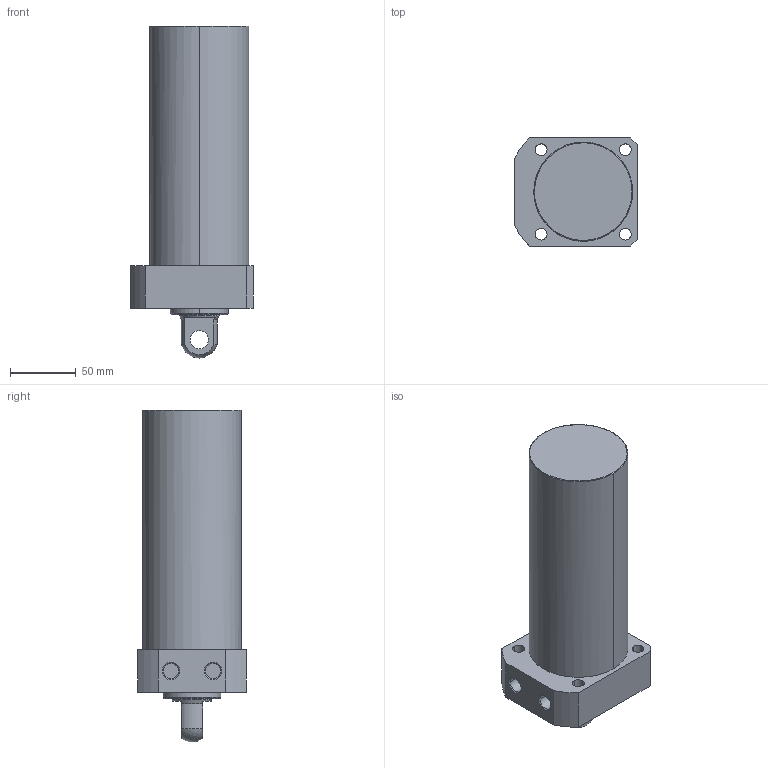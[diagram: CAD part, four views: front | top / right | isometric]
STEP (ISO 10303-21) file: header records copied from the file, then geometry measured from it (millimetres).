
FILE_DESCRIPTION((' '),'2;1');
FILE_NAME( 'TLLR-075CP-150.STEP.stp', '2025-10-24T16:35:17', (' '), ('--- Datakit www.datakit.com---'), ' Datakit CrossCadWare V2024.1 Dec 21 2023', 'Mastercam 2025', ' ');
FILE_SCHEMA(('AUTOMOTIVE_DESIGN { 1 0 10303 214 1 1 1 1 }'));
Length unit declared in the file: millimetre
Products named in the file (1): TLLR-075CP-150
Bounding box: 93 x 82 x 251.9 mm (x, y, z)
Volume: 1047501.5 mm3; surface area: 76121.3 mm2
Topology: 1 solids, 1 shells, 57 faces, 164 edges, 116 vertices
Faces by surface type: cylinder 28, plane 18, cone 8, torus 2, sphere 1
Entity records: 2006 total; most frequent: DIRECTION 378, CARTESIAN_POINT 350, ORIENTED_EDGE 328, EDGE_CURVE 164, AXIS2_PLACEMENT_3D 160, VERTEX_POINT 116, CIRCLE 102, EDGE_LOOP 74
